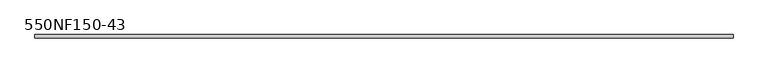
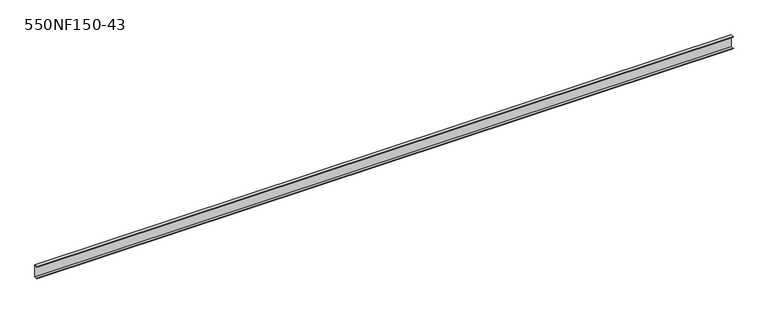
"""IFC4 building model written with IfcOpenShell, lengths in millimetres: beam geometry, BIMSF-SSMA-S : 550NF150-43."""

from ifc_helpers import new_model, si_unit, frame, origin, place, context, project, spatial, polyline, outline, extrude, source, transform, mapped, element, save


def beam_550nf150_43_6b8d1d64(model_context):
    return source(origin(), model_context, "Body", "SweptSolid", [
        extrude(outline(polyline([(19.05, 69.85), (19.05, -69.85), (-19.05, -69.85), (-19.05, -65.0748), (-17.9003158, -65.0748), (-17.9003158, -68.7003158), (17.9003158, -68.7003158), (17.9003158, 68.7003158), (-17.9003158, 68.7003158), (-17.9003158, 65.0748), (-19.05, 65.0748), (-19.05, 69.85), (19.05, 69.85)])), frame((-3880.4803618, 0.0, 0.0), z_axis=(1.0, 0.0, 0.0), x_axis=(0.0, 1.0, 0.0)), (0.0, 0.0, 1.0), 7760.9607235),
    ])


if __name__ == "__main__":
    model = new_model("IFC4")
    model_context = context("Model", 3, world=origin())
    ifc_project = project(units=[si_unit("LENGTHUNIT", "METRE", prefix="MILLI")], contexts=[model_context])
    site = spatial("IfcSite", under=ifc_project)
    building = spatial("IfcBuilding", under=site)
    placement = place(None, origin())
    beam_550nf150_43_shape = beam_550nf150_43_6b8d1d64(model_context)
    element("IfcBeam", 1, ObjectType="BIMSF-SSMA-S : 550NF150-43", at=placement, inside=building, context=model_context, shape_type="MappedRepresentation", body=[
        mapped(beam_550nf150_43_shape, transform((0.0, 0.0, 0.0), x_axis=(1.0, 0.0, 0.0), y_axis=(0.0, 1.0, 0.0), z_axis=(0.0, 0.0, 1.0))),
    ])
    save(model, "model.ifc")
